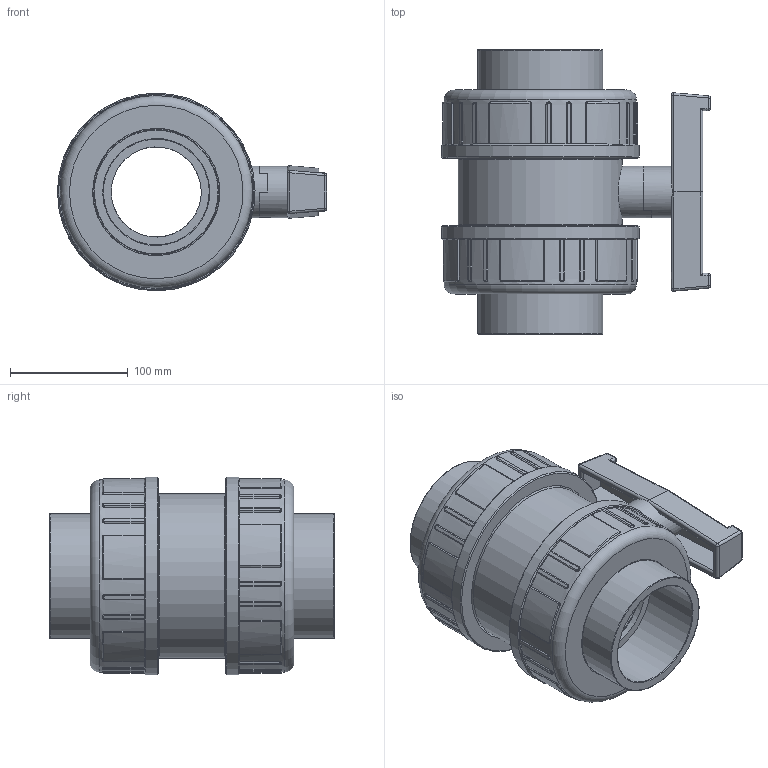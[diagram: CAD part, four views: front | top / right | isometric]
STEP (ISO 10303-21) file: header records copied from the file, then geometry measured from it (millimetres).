
FILE_DESCRIPTION(/* description */ (''),/* implementation_level */ '2;1');
FILE_NAME(/* name */ 'C:\Users\POLYPIPE\Desktop\DATASET INVENTOR\LIBRERIA EFFAST\3D_VALVOLE\3D_VALVOLE A SFERA\3D_BV\3D_BDRBVD\3D_BDRBVD0900.stp',/* time_stamp */ '2018-01-23T16:00:54+01:00',/* author */ ('POLYPIPE'),/* organization */ (''),/* preprocessor_version */ 'ST-DEVELOPER v16.1',/* originating_system */ 'Autodesk Inventor 2016',/* authorisation */ '');
FILE_SCHEMA (('CONFIG_CONTROL_DESIGN'));
Products named in the file (1): 3D_BDRBVD0900
Bounding box: 228.73 x 242 x 167.97 mm (x, y, z)
Volume: 2679427.4 mm3; surface area: 385707.4 mm2
Topology: 2 solids, 3 shells, 488 faces, 1210 edges, 749 vertices
Faces by surface type: cylinder 166, bspline 148, plane 136, torus 22, sphere 12, cone 4
Full cylindrical faces by diameter (mm): 29.8 x1, 43.5 x1, 44.1 x1, 76.6 x2, 76.8 x1, 90 x2, 106.2 x2, 108 x2, 108.2 x2, 133.1 x2, 137 x2, 139.5 x1, 142.5 x2, 163.5 x2, 168 x2
Entity records: 58255 total; most frequent: CARTESIAN_POINT 46899, ORIENTED_EDGE 2334, DIRECTION 2060, EDGE_CURVE 1167, AXIS2_PLACEMENT_3D 786, VERTEX_POINT 743, EDGE_LOOP 550, STYLED_ITEM 490
